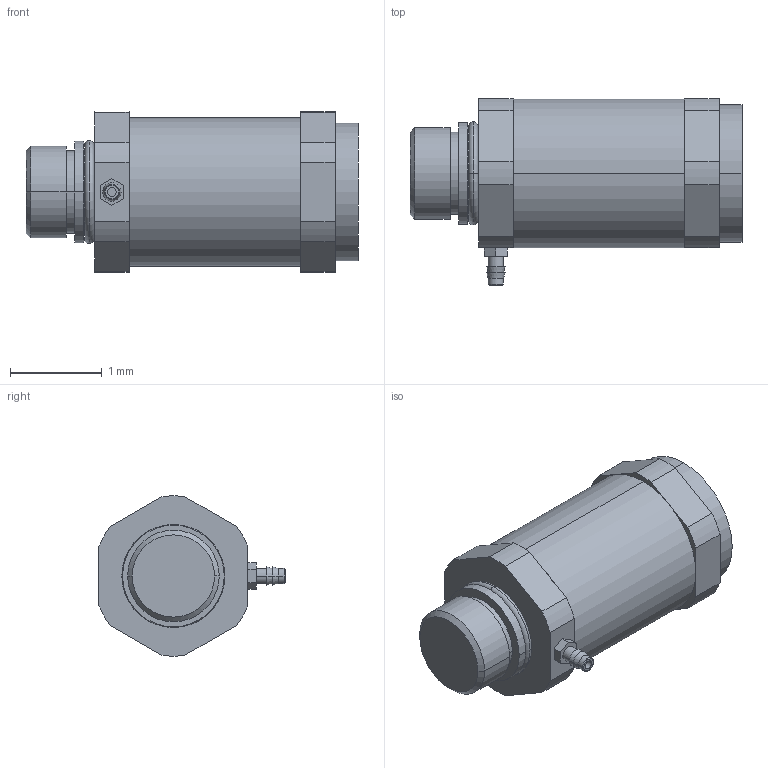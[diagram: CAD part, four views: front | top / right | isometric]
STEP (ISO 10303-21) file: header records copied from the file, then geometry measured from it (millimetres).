
FILE_DESCRIPTION((''),'2;1');
FILE_NAME('UG4.stp','2017-11-07T11:30:23',(''),(''),'Mechanical Desktop 2011','Mechanical Desktop 2011',', , ');
FILE_SCHEMA(('CONFIG_CONTROL_DESIGN'));
Length unit declared in the file: millimetre
Products named in the file (1): Product
Bounding box: 3.62 x 2.03 x 1.75 mm (x, y, z)
Volume: 6.6 mm3; surface area: 36 mm2
Topology: 6 solids, 6 shells, 77 faces, 170 edges, 110 vertices
Faces by surface type: plane 35, cylinder 30, torus 6, cone 6
Entity records: 2237 total; most frequent: DIRECTION 406, CARTESIAN_POINT 358, ORIENTED_EDGE 340, EDGE_CURVE 170, AXIS2_PLACEMENT_3D 158, VERTEX_POINT 110, VECTOR 90, LINE 90
